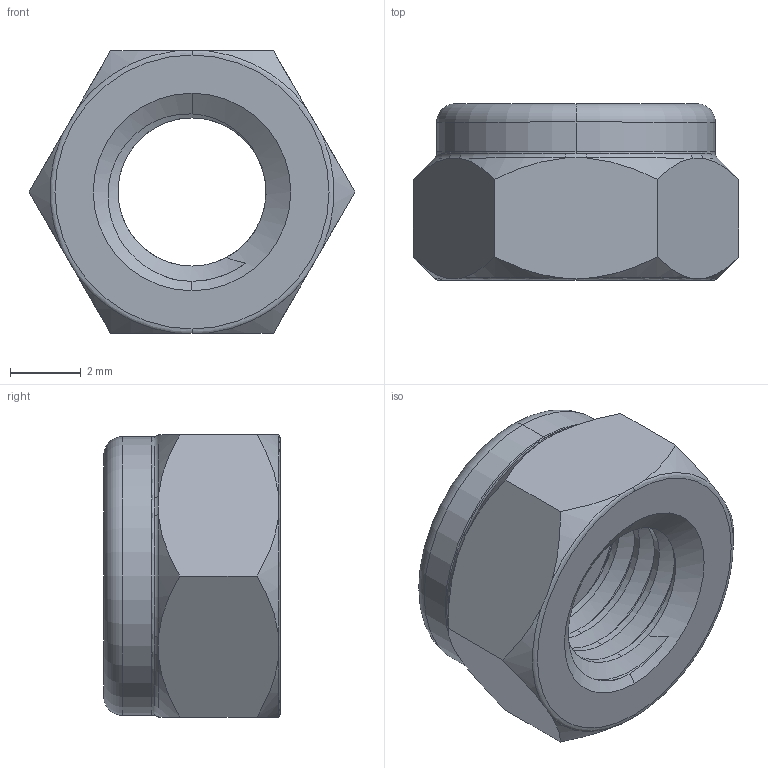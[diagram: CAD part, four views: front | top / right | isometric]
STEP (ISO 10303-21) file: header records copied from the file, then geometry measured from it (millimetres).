
FILE_DESCRIPTION (( 'STEP AP203' ), '1' );
FILE_NAME ('TANK-304-M5.STEP', '2026-08-25T01:58:42', ( '' ), ( '' ), 'SwSTEP 2.0', 'SolidWorks 2020', '' );
FILE_SCHEMA (( 'CONFIG_CONTROL_DESIGN' ));
Length unit declared in the file: millimetre
Products named in the file (1): TANK-304-M5
Bounding box: 9.24 x 5 x 8 mm (x, y, z)
Volume: 170.7 mm3; surface area: 425.3 mm2
Topology: 2 solids, 2 shells, 69 faces, 170 edges, 105 vertices
Faces by surface type: cone 18, torus 16, cylinder 16, plane 10, bspline 9
Entity records: 3441 total; most frequent: CARTESIAN_POINT 1865, ORIENTED_EDGE 340, DIRECTION 291, EDGE_CURVE 170, AXIS2_PLACEMENT_3D 132, VERTEX_POINT 105, EDGE_LOOP 73, CIRCLE 71
